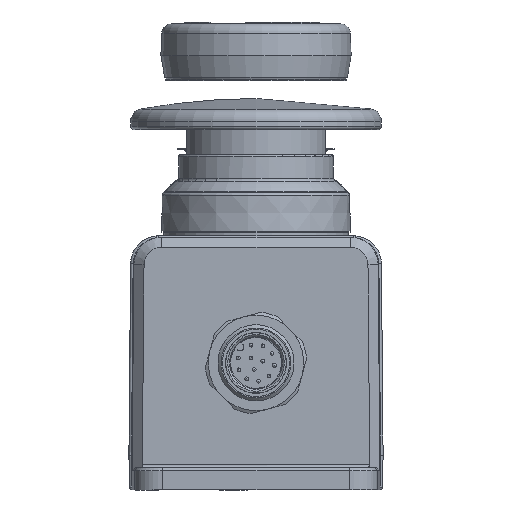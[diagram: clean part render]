
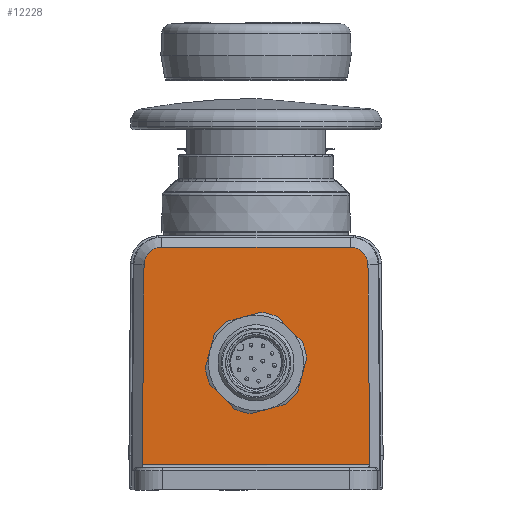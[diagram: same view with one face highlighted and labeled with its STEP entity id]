
A CAD part, front view. The second image highlights one B-rep face of the part: STEP entity #12228.
In plain terms, the highlighted planar face has unit normal (0, -1, 0).
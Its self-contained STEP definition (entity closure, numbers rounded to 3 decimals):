
#839=FACE_BOUND('',#1976,.T.);
#906=PLANE('',#13151);
#1206=FACE_OUTER_BOUND('',#1975,.T.);
#1975=EDGE_LOOP('',(#8098,#8099,#8100,#8101,#8102,#8103));
#1976=EDGE_LOOP('',(#8104,#8105,#8106,#8107,#8108,#8109));
#2720=LINE('',#18270,#3417);
#2745=LINE('',#18333,#3442);
#2748=LINE('',#18344,#3445);
#2751=LINE('',#18353,#3448);
#3417=VECTOR('',#14749,10.);
#3442=VECTOR('',#14812,10.);
#3445=VECTOR('',#14823,10.);
#3448=VECTOR('',#14834,10.);
#4178=CIRCLE('',#13128,2.8);
#4180=CIRCLE('',#13132,2.8);
#4189=CIRCLE('',#13152,7.5);
#4190=CIRCLE('',#13153,7.5);
#4191=CIRCLE('',#13154,7.5);
#4192=CIRCLE('',#13155,7.5);
#4193=CIRCLE('',#13156,7.5);
#4194=CIRCLE('',#13157,7.5);
#4864=VERTEX_POINT('',#18263);
#4867=VERTEX_POINT('',#18268);
#4886=VERTEX_POINT('',#18331);
#4888=VERTEX_POINT('',#18337);
#4890=VERTEX_POINT('',#18342);
#4892=VERTEX_POINT('',#18349);
#4906=VERTEX_POINT('',#18400);
#4907=VERTEX_POINT('',#18401);
#4908=VERTEX_POINT('',#18403);
#4909=VERTEX_POINT('',#18405);
#4910=VERTEX_POINT('',#18407);
#4911=VERTEX_POINT('',#18409);
#6047=EDGE_CURVE('',#4867,#4864,#2720,.T.);
#6079=EDGE_CURVE('',#4886,#4867,#2745,.T.);
#6082=EDGE_CURVE('',#4888,#4886,#4178,.T.);
#6084=EDGE_CURVE('',#4890,#4888,#2748,.T.);
#6088=EDGE_CURVE('',#4892,#4890,#4180,.T.);
#6089=EDGE_CURVE('',#4864,#4892,#2751,.T.);
#6113=EDGE_CURVE('',#4906,#4907,#4189,.T.);
#6114=EDGE_CURVE('',#4907,#4908,#4190,.T.);
#6115=EDGE_CURVE('',#4908,#4909,#4191,.T.);
#6116=EDGE_CURVE('',#4909,#4910,#4192,.T.);
#6117=EDGE_CURVE('',#4910,#4911,#4193,.T.);
#6118=EDGE_CURVE('',#4911,#4906,#4194,.T.);
#8098=ORIENTED_EDGE('',*,*,#6047,.F.);
#8099=ORIENTED_EDGE('',*,*,#6079,.F.);
#8100=ORIENTED_EDGE('',*,*,#6082,.F.);
#8101=ORIENTED_EDGE('',*,*,#6084,.F.);
#8102=ORIENTED_EDGE('',*,*,#6088,.F.);
#8103=ORIENTED_EDGE('',*,*,#6089,.F.);
#8104=ORIENTED_EDGE('',*,*,#6113,.T.);
#8105=ORIENTED_EDGE('',*,*,#6114,.T.);
#8106=ORIENTED_EDGE('',*,*,#6115,.T.);
#8107=ORIENTED_EDGE('',*,*,#6116,.T.);
#8108=ORIENTED_EDGE('',*,*,#6117,.T.);
#8109=ORIENTED_EDGE('',*,*,#6118,.T.);
#12228=ADVANCED_FACE('',(#1206,#839),#906,.T.);
#13128=AXIS2_PLACEMENT_3D('',#18339,#14818,#14819);
#13132=AXIS2_PLACEMENT_3D('',#18351,#14830,#14831);
#13151=AXIS2_PLACEMENT_3D('',#18399,#14884,#14885);
#13152=AXIS2_PLACEMENT_3D('',#18402,#14886,#14887);
#13153=AXIS2_PLACEMENT_3D('',#18404,#14888,#14889);
#13154=AXIS2_PLACEMENT_3D('',#18406,#14890,#14891);
#13155=AXIS2_PLACEMENT_3D('',#18408,#14892,#14893);
#13156=AXIS2_PLACEMENT_3D('',#18410,#14894,#14895);
#13157=AXIS2_PLACEMENT_3D('',#18411,#14896,#14897);
#14749=DIRECTION('',(-1.,0.,0.));
#14812=DIRECTION('',(0.009,0.,-1.));
#14818=DIRECTION('center_axis',(0.,1.,0.));
#14819=DIRECTION('ref_axis',(0.704,0.,0.71));
#14823=DIRECTION('',(1.,0.,0.));
#14830=DIRECTION('center_axis',(0.,1.,0.));
#14831=DIRECTION('ref_axis',(-0.704,0.,0.71));
#14834=DIRECTION('',(0.009,0.,1.));
#14884=DIRECTION('center_axis',(0.,-1.,0.));
#14885=DIRECTION('ref_axis',(-1.,0.,0.));
#14886=DIRECTION('center_axis',(0.,1.,0.));
#14887=DIRECTION('ref_axis',(-0.707,0.,0.707));
#14888=DIRECTION('center_axis',(0.,1.,0.));
#14889=DIRECTION('ref_axis',(-0.707,0.,0.707));
#14890=DIRECTION('center_axis',(0.,1.,0.));
#14891=DIRECTION('ref_axis',(-0.707,0.,0.707));
#14892=DIRECTION('center_axis',(0.,1.,0.));
#14893=DIRECTION('ref_axis',(-0.707,0.,0.707));
#14894=DIRECTION('center_axis',(0.,1.,0.));
#14895=DIRECTION('ref_axis',(-0.707,0.,0.707));
#14896=DIRECTION('center_axis',(0.,1.,0.));
#14897=DIRECTION('ref_axis',(-0.707,0.,0.707));
#18263=CARTESIAN_POINT('',(-17.896,-119.5,-16.));
#18268=CARTESIAN_POINT('',(17.896,-119.5,-16.));
#18270=CARTESIAN_POINT('',(9.75,-119.5,-16.));
#18331=CARTESIAN_POINT('',(17.621,-119.5,15.424));
#18333=CARTESIAN_POINT('',(17.828,-119.5,-8.27));
#18337=CARTESIAN_POINT('',(14.821,-119.5,18.2));
#18339=CARTESIAN_POINT('Origin',(14.821,-119.5,15.4));
#18342=CARTESIAN_POINT('',(-14.821,-119.5,18.2));
#18344=CARTESIAN_POINT('',(9.592,-119.5,18.2));
#18349=CARTESIAN_POINT('',(-17.621,-119.5,15.424));
#18351=CARTESIAN_POINT('Origin',(-14.821,-119.5,15.4));
#18353=CARTESIAN_POINT('',(-17.67,-119.5,9.88));
#18399=CARTESIAN_POINT('Origin',(0.,-119.5,-0.18));
#18400=CARTESIAN_POINT('',(7.244,-119.5,-1.941));
#18401=CARTESIAN_POINT('',(1.941,-119.5,-7.244));
#18402=CARTESIAN_POINT('Origin',(0.,-119.5,
0.));
#18403=CARTESIAN_POINT('',(-5.303,-119.5,-5.303));
#18404=CARTESIAN_POINT('Origin',(0.,-119.5,
0.));
#18405=CARTESIAN_POINT('',(-7.244,-119.5,1.941));
#18406=CARTESIAN_POINT('Origin',(0.,-119.5,
0.));
#18407=CARTESIAN_POINT('',(-1.941,-119.5,7.244));
#18408=CARTESIAN_POINT('Origin',(0.,-119.5,
0.));
#18409=CARTESIAN_POINT('',(5.303,-119.5,5.303));
#18410=CARTESIAN_POINT('Origin',(0.,-119.5,
0.));
#18411=CARTESIAN_POINT('Origin',(0.,-119.5,
0.));
